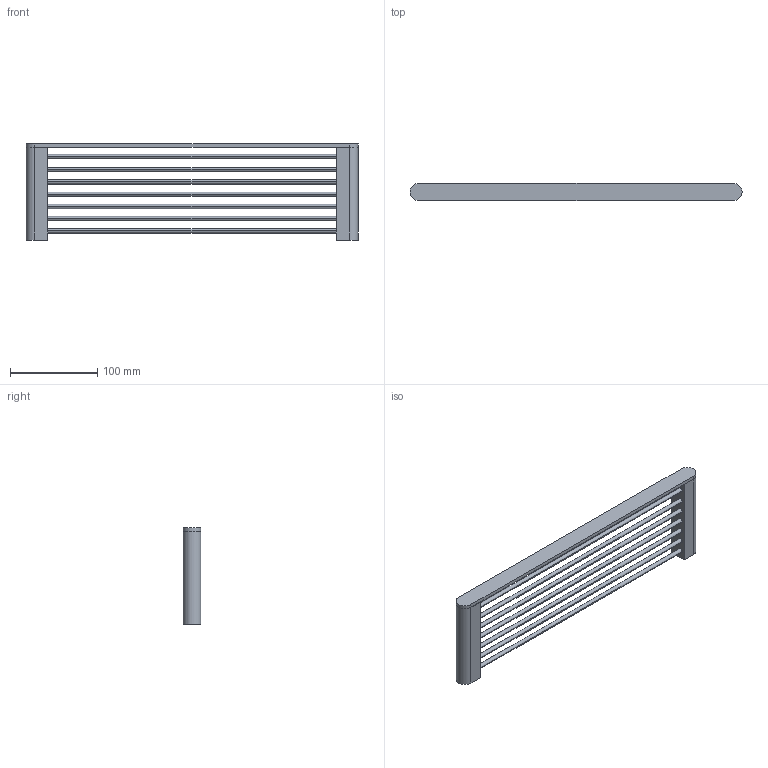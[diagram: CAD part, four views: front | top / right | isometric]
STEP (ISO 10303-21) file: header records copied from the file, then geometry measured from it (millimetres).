
FILE_DESCRIPTION(('FreeCAD Model'),'2;1');
FILE_NAME('Open CASCADE Shape Model','2024-08-10T18:43:28',('Author'),( ''),'Open CASCADE STEP processor 7.6','FreeCAD','Unknown');
FILE_SCHEMA(('AUTOMOTIVE_DESIGN { 1 0 10303 214 1 1 1 1 }'));
Length unit declared in the file: millimetre
Products named in the file (13): TopLevelAssembly; Wyciąganie001; Wyciąganie004; Wyciąganie002; Wyciąganie003; Wyciąganie012; Wyciąganie005; Wyciąganie006; Wyciąganie007; Wyciąganie008; Wyciąganie009; Wyciąganie010; Wyciąganie011
Assembly tree (12 placements, depth 3):
  TopLevelAssembly
    Wyciąganie001
    Wyciąganie004
      Wyciąganie002
      Wyciąganie003
    Wyciąganie012
      Wyciąganie005
      Wyciąganie006
      Wyciąganie007
      Wyciąganie008
      Wyciąganie009
      Wyciąganie010
      Wyciąganie011
Bounding box: 380 x 20 x 110 mm (x, y, z)
Volume: 172314.3 mm3; surface area: 73808.4 mm2
Topology: 10 solids, 10 shells, 46 faces, 78 edges, 52 vertices
Faces by surface type: plane 28, cylinder 18
Entity records: 1408 total; most frequent: DIRECTION 232, CARTESIAN_POINT 189, ORIENTED_EDGE 156, AXIS2_PLACEMENT_3D 95, EDGE_CURVE 78, VERTEX_POINT 52, ADVANCED_FACE 46, FACE_BOUND 46
